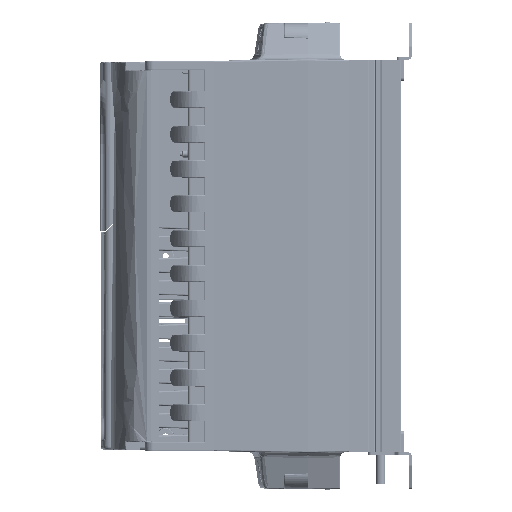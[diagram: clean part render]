
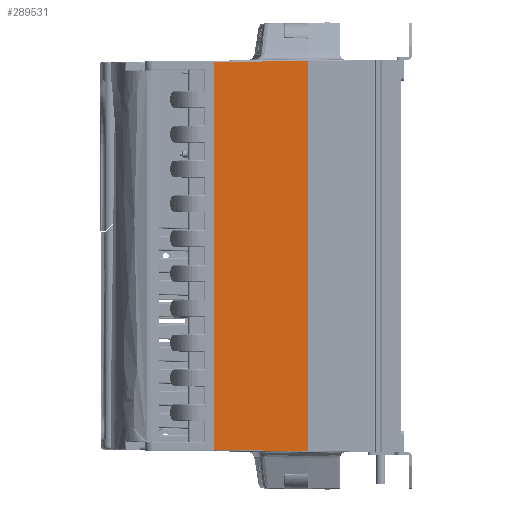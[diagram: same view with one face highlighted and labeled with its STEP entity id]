
A CAD part, left-side view. The second image highlights one B-rep face of the part: STEP entity #289531.
In plain terms, the highlighted planar face has unit normal (-1, 0.018, 0).
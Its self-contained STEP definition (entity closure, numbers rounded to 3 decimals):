
#25440 = CARTESIAN_POINT ( 'NONE',  ( -74.377, 83.501, -122.377 ) ) ;
#45311 = DIRECTION ( 'NONE',  ( -0.017, -1., -0.017 ) ) ;
#45312 = CARTESIAN_POINT ( 'NONE',  ( -75.419, 23.783, -123.419 ) ) ;
#46410 = DIRECTION ( 'NONE',  ( 0., 0., -1. ) ) ;
#46413 = CARTESIAN_POINT ( 'NONE',  ( -74.377, 83.501, -124.419 ) ) ;
#47085 = DIRECTION ( 'NONE',  ( 0.017, 1., -0.017 ) ) ;
#47135 = CARTESIAN_POINT ( 'NONE',  ( -75.343, 28.123, 123.344 ) ) ;
#54103 = DIRECTION ( 'NONE',  ( 0., 0., 1. ) ) ;
#54184 = CARTESIAN_POINT ( 'NONE',  ( -75.415, 24., -124.419 ) ) ;
#154535 = LINE ( 'NONE', #54184, #154540 ) ;
#154540 = VECTOR ( 'NONE', #54103, 1000. ) ;
#234215 = ORIENTED_EDGE ( 'NONE', *, *, #362032, .T. ) ;
#234220 = ORIENTED_EDGE ( 'NONE', *, *, #362136, .T. ) ;
#238643 = ORIENTED_EDGE ( 'NONE', *, *, #361964, .T. ) ;
#239556 = ORIENTED_EDGE ( 'NONE', *, *, #310075, .T. ) ;
#289531 = ADVANCED_FACE ( 'NONE', ( #409894 ), #354181, .T. ) ;
#301216 = CARTESIAN_POINT ( 'NONE',  ( -74.377, 83.501, 122.377 ) ) ;
#310075 = EDGE_CURVE ( 'NONE', #511779, #511014, #154535, .T. ) ;
#326607 = AXIS2_PLACEMENT_3D ( 'NONE', #354322, #354097, #354091 ) ;
#354091 = DIRECTION ( 'NONE',  ( -0.017, -1., 0. ) ) ;
#354097 = DIRECTION ( 'NONE',  ( -1., 0.017, 0. ) ) ;
#354181 = PLANE ( 'NONE',  #326607 ) ;
#354322 = CARTESIAN_POINT ( 'NONE',  ( -75.419, 23.8, -124.419 ) ) ;
#361964 = EDGE_CURVE ( 'NONE', #511014, #538306, #369219, .T. ) ;
#362032 = EDGE_CURVE ( 'NONE', #538306, #412380, #369247, .T. ) ;
#362136 = EDGE_CURVE ( 'NONE', #412380, #511779, #369453, .T. ) ;
#369219 = LINE ( 'NONE', #47135, #369292 ) ;
#369247 = LINE ( 'NONE', #46413, #369347 ) ;
#369292 = VECTOR ( 'NONE', #47085, 1000. ) ;
#369347 = VECTOR ( 'NONE', #46410, 1000. ) ;
#369447 = VECTOR ( 'NONE', #45311, 1000. ) ;
#369453 = LINE ( 'NONE', #45312, #369447 ) ;
#404538 = CARTESIAN_POINT ( 'NONE',  ( -75.415, 24., 123.416 ) ) ;
#404665 = CARTESIAN_POINT ( 'NONE',  ( -75.415, 24., -123.416 ) ) ;
#409894 = FACE_OUTER_BOUND ( 'NONE', #559531, .T. ) ;
#412380 = VERTEX_POINT ( 'NONE', #25440 ) ;
#511014 = VERTEX_POINT ( 'NONE', #404538 ) ;
#511779 = VERTEX_POINT ( 'NONE', #404665 ) ;
#538306 = VERTEX_POINT ( 'NONE', #301216 ) ;
#559531 = EDGE_LOOP ( 'NONE', ( #234215, #234220, #239556, #238643 ) ) ;
